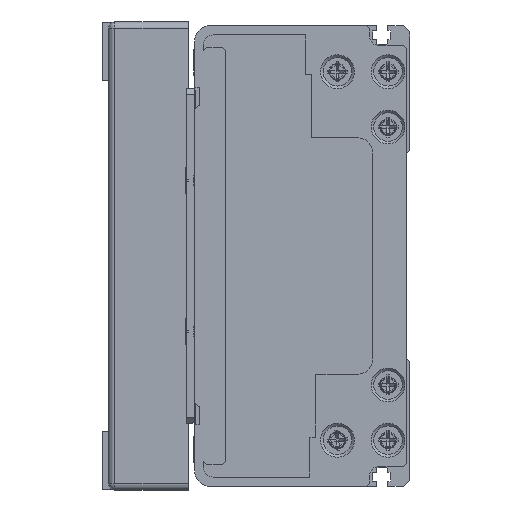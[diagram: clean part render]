
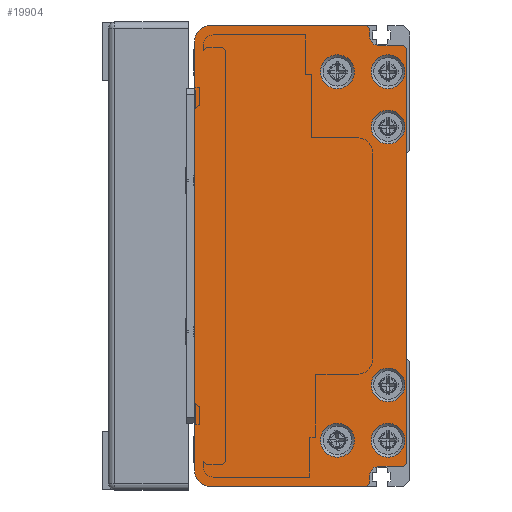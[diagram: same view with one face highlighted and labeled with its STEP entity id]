
A CAD part, left-side view. The second image highlights one B-rep face of the part: STEP entity #19904.
In plain terms, the highlighted planar face has unit normal (-1, 0, 0) as drawn and (0, 0, -1) by its records, which use the part's own axes.
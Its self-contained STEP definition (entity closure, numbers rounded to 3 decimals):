
#934=LINE('',#28802,#2599);
#935=LINE('',#28806,#2600);
#936=LINE('',#28808,#2601);
#937=LINE('',#28810,#2602);
#938=LINE('',#28814,#2603);
#939=LINE('',#28816,#2604);
#940=LINE('',#28818,#2605);
#941=LINE('',#28820,#2606);
#942=LINE('',#28822,#2607);
#943=LINE('',#28826,#2608);
#944=LINE('',#28828,#2609);
#945=LINE('',#28830,#2610);
#2599=VECTOR('',#23391,140.);
#2600=VECTOR('',#23394,51.);
#2601=VECTOR('',#23395,1.414);
#2602=VECTOR('',#23396,2.5);
#2603=VECTOR('',#23399,8.);
#2604=VECTOR('',#23400,1.414);
#2605=VECTOR('',#23401,135.);
#2606=VECTOR('',#23402,1.414);
#2607=VECTOR('',#23403,8.);
#2608=VECTOR('',#23406,2.5);
#2609=VECTOR('',#23407,1.414);
#2610=VECTOR('',#23408,51.);
#4217=PLANE('',#21278);
#4848=FACE_BOUND('',#6704,.T.);
#4849=FACE_BOUND('',#6705,.T.);
#4850=FACE_BOUND('',#6706,.T.);
#4851=FACE_BOUND('',#6707,.T.);
#4852=FACE_BOUND('',#6708,.T.);
#4853=FACE_BOUND('',#6709,.T.);
#5415=FACE_OUTER_BOUND('',#6703,.T.);
#6703=EDGE_LOOP('',(#13983,#13984,#13985,#13986,#13987,#13988,#13989,#13990,
#13991,#13992,#13993,#13994,#13995,#13996,#13997,#13998));
#6704=EDGE_LOOP('',(#13999));
#6705=EDGE_LOOP('',(#14000));
#6706=EDGE_LOOP('',(#14001));
#6707=EDGE_LOOP('',(#14002));
#6708=EDGE_LOOP('',(#14003));
#6709=EDGE_LOOP('',(#14004));
#8221=CIRCLE('',#21279,5.);
#8222=CIRCLE('',#21280,3.);
#8223=CIRCLE('',#21281,3.);
#8224=CIRCLE('',#21282,5.);
#8225=CIRCLE('',#21283,5.5);
#8226=CIRCLE('',#21284,5.5);
#8227=CIRCLE('',#21285,5.5);
#8228=CIRCLE('',#21286,5.5);
#8229=CIRCLE('',#21287,5.5);
#8230=CIRCLE('',#21288,5.5);
#8917=VERTEX_POINT('',#28800);
#8918=VERTEX_POINT('',#28801);
#8919=VERTEX_POINT('',#28803);
#8920=VERTEX_POINT('',#28805);
#8921=VERTEX_POINT('',#28807);
#8922=VERTEX_POINT('',#28809);
#8923=VERTEX_POINT('',#28811);
#8924=VERTEX_POINT('',#28813);
#8925=VERTEX_POINT('',#28815);
#8926=VERTEX_POINT('',#28817);
#8927=VERTEX_POINT('',#28819);
#8928=VERTEX_POINT('',#28821);
#8929=VERTEX_POINT('',#28823);
#8930=VERTEX_POINT('',#28825);
#8931=VERTEX_POINT('',#28827);
#8932=VERTEX_POINT('',#28829);
#8933=VERTEX_POINT('',#28832);
#8934=VERTEX_POINT('',#28834);
#8935=VERTEX_POINT('',#28836);
#8936=VERTEX_POINT('',#28838);
#8937=VERTEX_POINT('',#28840);
#8938=VERTEX_POINT('',#28842);
#10957=EDGE_CURVE('',#8917,#8918,#934,.T.);
#10958=EDGE_CURVE('',#8918,#8919,#8221,.T.);
#10959=EDGE_CURVE('',#8919,#8920,#935,.T.);
#10960=EDGE_CURVE('',#8920,#8921,#936,.T.);
#10961=EDGE_CURVE('',#8921,#8922,#937,.T.);
#10962=EDGE_CURVE('',#8922,#8923,#8222,.T.);
#10963=EDGE_CURVE('',#8923,#8924,#938,.T.);
#10964=EDGE_CURVE('',#8924,#8925,#939,.T.);
#10965=EDGE_CURVE('',#8925,#8926,#940,.T.);
#10966=EDGE_CURVE('',#8926,#8927,#941,.T.);
#10967=EDGE_CURVE('',#8927,#8928,#942,.T.);
#10968=EDGE_CURVE('',#8928,#8929,#8223,.T.);
#10969=EDGE_CURVE('',#8929,#8930,#943,.T.);
#10970=EDGE_CURVE('',#8930,#8931,#944,.T.);
#10971=EDGE_CURVE('',#8931,#8932,#945,.T.);
#10972=EDGE_CURVE('',#8932,#8917,#8224,.T.);
#10973=EDGE_CURVE('',#8933,#8933,#8225,.T.);
#10974=EDGE_CURVE('',#8934,#8934,#8226,.T.);
#10975=EDGE_CURVE('',#8935,#8935,#8227,.T.);
#10976=EDGE_CURVE('',#8936,#8936,#8228,.T.);
#10977=EDGE_CURVE('',#8937,#8937,#8229,.T.);
#10978=EDGE_CURVE('',#8938,#8938,#8230,.T.);
#13983=ORIENTED_EDGE('',*,*,#10957,.T.);
#13984=ORIENTED_EDGE('',*,*,#10958,.T.);
#13985=ORIENTED_EDGE('',*,*,#10959,.T.);
#13986=ORIENTED_EDGE('',*,*,#10960,.T.);
#13987=ORIENTED_EDGE('',*,*,#10961,.T.);
#13988=ORIENTED_EDGE('',*,*,#10962,.T.);
#13989=ORIENTED_EDGE('',*,*,#10963,.T.);
#13990=ORIENTED_EDGE('',*,*,#10964,.T.);
#13991=ORIENTED_EDGE('',*,*,#10965,.T.);
#13992=ORIENTED_EDGE('',*,*,#10966,.T.);
#13993=ORIENTED_EDGE('',*,*,#10967,.T.);
#13994=ORIENTED_EDGE('',*,*,#10968,.T.);
#13995=ORIENTED_EDGE('',*,*,#10969,.T.);
#13996=ORIENTED_EDGE('',*,*,#10970,.T.);
#13997=ORIENTED_EDGE('',*,*,#10971,.T.);
#13998=ORIENTED_EDGE('',*,*,#10972,.T.);
#13999=ORIENTED_EDGE('',*,*,#10973,.T.);
#14000=ORIENTED_EDGE('',*,*,#10974,.T.);
#14001=ORIENTED_EDGE('',*,*,#10975,.T.);
#14002=ORIENTED_EDGE('',*,*,#10976,.T.);
#14003=ORIENTED_EDGE('',*,*,#10977,.T.);
#14004=ORIENTED_EDGE('',*,*,#10978,.T.);
#19904=ADVANCED_FACE('',(#5415,#4848,#4849,#4850,#4851,#4852,#4853),#4217,
 .F.);
#21278=AXIS2_PLACEMENT_3D('',#28799,#23389,#23390);
#21279=AXIS2_PLACEMENT_3D('',#28804,#23392,#23393);
#21280=AXIS2_PLACEMENT_3D('',#28812,#23397,#23398);
#21281=AXIS2_PLACEMENT_3D('',#28824,#23404,#23405);
#21282=AXIS2_PLACEMENT_3D('',#28831,#23409,#23410);
#21283=AXIS2_PLACEMENT_3D('',#28833,#23411,#23412);
#21284=AXIS2_PLACEMENT_3D('',#28835,#23413,#23414);
#21285=AXIS2_PLACEMENT_3D('',#28837,#23415,#23416);
#21286=AXIS2_PLACEMENT_3D('',#28839,#23417,#23418);
#21287=AXIS2_PLACEMENT_3D('',#28841,#23419,#23420);
#21288=AXIS2_PLACEMENT_3D('',#28843,#23421,#23422);
#23389=DIRECTION('center_axis',(0.,0.,
1.));
#23390=DIRECTION('ref_axis',(1.,0.,0.));
#23391=DIRECTION('',(1.,0.,0.));
#23392=DIRECTION('center_axis',(0.,0.,
-1.));
#23393=DIRECTION('ref_axis',(-1.,0.,0.));
#23394=DIRECTION('',(0.,-1.,0.));
#23395=DIRECTION('',(-0.707,-0.707,0.));
#23396=DIRECTION('',(-1.,0.,0.));
#23397=DIRECTION('center_axis',(0.,0.,
1.));
#23398=DIRECTION('ref_axis',(0.,1.,0.));
#23399=DIRECTION('',(0.,-1.,0.));
#23400=DIRECTION('',(-0.707,-0.707,0.));
#23401=DIRECTION('',(-1.,0.,0.));
#23402=DIRECTION('',(-0.707,0.707,0.));
#23403=DIRECTION('',(0.,1.,0.));
#23404=DIRECTION('center_axis',(0.,0.,
1.));
#23405=DIRECTION('ref_axis',(1.,0.,0.));
#23406=DIRECTION('',(-1.,0.,0.));
#23407=DIRECTION('',(-0.707,0.707,0.));
#23408=DIRECTION('',(0.,1.,0.));
#23409=DIRECTION('center_axis',(0.,0.,
-1.));
#23410=DIRECTION('ref_axis',(0.,-1.,0.));
#23411=DIRECTION('center_axis',(0.,0.,
1.));
#23412=DIRECTION('ref_axis',(-1.,0.,0.));
#23413=DIRECTION('center_axis',(0.,0.,
1.));
#23414=DIRECTION('ref_axis',(-1.,0.,0.));
#23415=DIRECTION('center_axis',(0.,0.,
1.));
#23416=DIRECTION('ref_axis',(-1.,0.,0.));
#23417=DIRECTION('center_axis',(0.,0.,
1.));
#23418=DIRECTION('ref_axis',(-1.,0.,0.));
#23419=DIRECTION('center_axis',(0.,0.,
1.));
#23420=DIRECTION('ref_axis',(-1.,0.,0.));
#23421=DIRECTION('center_axis',(0.,0.,
1.));
#23422=DIRECTION('ref_axis',(-1.,0.,0.));
#28799=CARTESIAN_POINT('Origin',(0.25,38.047,-1469.));
#28800=CARTESIAN_POINT('',(-69.75,72.25,-1469.));
#28801=CARTESIAN_POINT('',(70.25,72.25,-1469.));
#28802=CARTESIAN_POINT('',(-69.75,72.25,-1469.));
#28803=CARTESIAN_POINT('',(75.25,67.25,-1469.));
#28804=CARTESIAN_POINT('Origin',(70.25,67.25,-1469.));
#28805=CARTESIAN_POINT('',(75.25,16.25,-1469.));
#28806=CARTESIAN_POINT('',(75.25,67.25,-1469.));
#28807=CARTESIAN_POINT('',(74.25,15.25,-1469.));
#28808=CARTESIAN_POINT('',(75.25,16.25,-1469.));
#28809=CARTESIAN_POINT('',(71.75,15.25,-1469.));
#28810=CARTESIAN_POINT('',(74.25,15.25,-1469.));
#28811=CARTESIAN_POINT('',(68.75,12.25,-1469.));
#28812=CARTESIAN_POINT('Origin',(71.75,12.25,-1469.));
#28813=CARTESIAN_POINT('',(68.75,4.25,-1469.));
#28814=CARTESIAN_POINT('',(68.75,12.25,-1469.));
#28815=CARTESIAN_POINT('',(67.75,3.25,-1469.));
#28816=CARTESIAN_POINT('',(68.75,4.25,-1469.));
#28817=CARTESIAN_POINT('',(-67.25,3.25,-1469.));
#28818=CARTESIAN_POINT('',(67.75,3.25,-1469.));
#28819=CARTESIAN_POINT('',(-68.25,4.25,-1469.));
#28820=CARTESIAN_POINT('',(-67.25,3.25,-1469.));
#28821=CARTESIAN_POINT('',(-68.25,12.25,-1469.));
#28822=CARTESIAN_POINT('',(-68.25,4.25,-1469.));
#28823=CARTESIAN_POINT('',(-71.25,15.25,-1469.));
#28824=CARTESIAN_POINT('Origin',(-71.25,12.25,-1469.));
#28825=CARTESIAN_POINT('',(-73.75,15.25,-1469.));
#28826=CARTESIAN_POINT('',(-71.25,15.25,-1469.));
#28827=CARTESIAN_POINT('',(-74.75,16.25,-1469.));
#28828=CARTESIAN_POINT('',(-73.75,15.25,-1469.));
#28829=CARTESIAN_POINT('',(-74.75,67.25,-1469.));
#28830=CARTESIAN_POINT('',(-74.75,16.25,-1469.));
#28831=CARTESIAN_POINT('Origin',(-69.75,67.25,-1469.));
#28832=CARTESIAN_POINT('',(-47.25,9.25,-1469.));
#28833=CARTESIAN_POINT('Origin',(-41.75,9.25,-1469.));
#28834=CARTESIAN_POINT('',(36.75,9.25,-1469.));
#28835=CARTESIAN_POINT('Origin',(42.25,9.25,-1469.));
#28836=CARTESIAN_POINT('',(-65.25,25.75,-1469.));
#28837=CARTESIAN_POINT('Origin',(-59.75,25.75,-1469.));
#28838=CARTESIAN_POINT('',(54.75,25.75,-1469.));
#28839=CARTESIAN_POINT('Origin',(60.25,25.75,-1469.));
#28840=CARTESIAN_POINT('',(-65.25,9.25,-1469.));
#28841=CARTESIAN_POINT('Origin',(-59.75,9.25,-1469.));
#28842=CARTESIAN_POINT('',(54.75,9.25,-1469.));
#28843=CARTESIAN_POINT('Origin',(60.25,9.25,-1469.));
